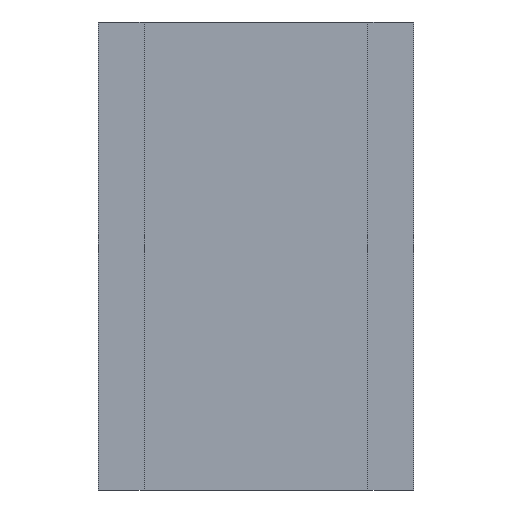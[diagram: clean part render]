
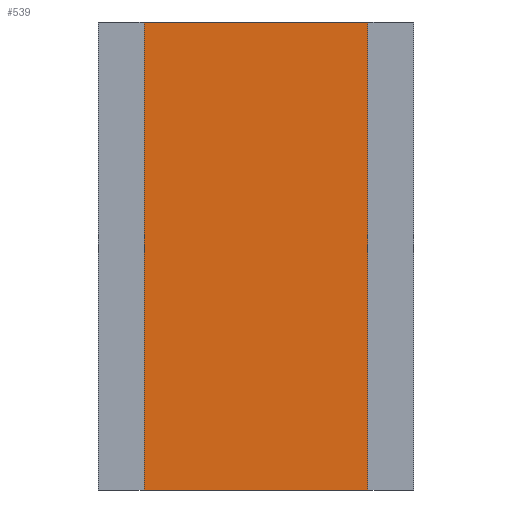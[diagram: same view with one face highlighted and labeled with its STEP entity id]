
A CAD part, front view. The second image highlights one B-rep face of the part: STEP entity #539.
In plain terms, the highlighted planar face has unit normal (0, -1, 0).
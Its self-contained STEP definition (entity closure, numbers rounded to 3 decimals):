
#32 = PLANE('',#33);
#33 = AXIS2_PLACEMENT_3D('',#34,#35,#36);
#34 = CARTESIAN_POINT('',(0.,0.275,-2.3));
#35 = DIRECTION('',(0.,0.,-1.));
#36 = DIRECTION('',(0.,1.,0.));
#136 = VERTEX_POINT('',#137);
#137 = CARTESIAN_POINT('',(1.1,0.15,-2.3));
#158 = EDGE_CURVE('',#136,#159,#161,.T.);
#159 = VERTEX_POINT('',#160);
#160 = CARTESIAN_POINT('',(-1.1,0.15,-2.3));
#161 = SURFACE_CURVE('',#162,(#166,#173),.PCURVE_S1.);
#162 = LINE('',#163,#164);
#163 = CARTESIAN_POINT('',(1.4,0.15,-2.3));
#164 = VECTOR('',#165,1.);
#165 = DIRECTION('',(-1.,0.,0.));
#166 = PCURVE('',#32,#167);
#167 = DEFINITIONAL_REPRESENTATION('',(#168),#172);
#168 = LINE('',#169,#170);
#169 = CARTESIAN_POINT('',(-0.125,1.4));
#170 = VECTOR('',#171,1.);
#171 = DIRECTION('',(0.,-1.));
#172 = ( GEOMETRIC_REPRESENTATION_CONTEXT(2) 
PARAMETRIC_REPRESENTATION_CONTEXT() REPRESENTATION_CONTEXT('2D SPACE',''
  ) );
#173 = PCURVE('',#174,#179);
#174 = PLANE('',#175);
#175 = AXIS2_PLACEMENT_3D('',#176,#177,#178);
#176 = CARTESIAN_POINT('',(1.4,0.15,-2.3));
#177 = DIRECTION('',(0.,-1.,0.));
#178 = DIRECTION('',(-1.,0.,0.));
#179 = DEFINITIONAL_REPRESENTATION('',(#180),#184);
#180 = LINE('',#181,#182);
#181 = CARTESIAN_POINT('',(0.,-0.));
#182 = VECTOR('',#183,1.);
#183 = DIRECTION('',(1.,0.));
#184 = ( GEOMETRIC_REPRESENTATION_CONTEXT(2) 
PARAMETRIC_REPRESENTATION_CONTEXT() REPRESENTATION_CONTEXT('2D SPACE',''
  ) );
#333 = PLANE('',#334);
#334 = AXIS2_PLACEMENT_3D('',#335,#336,#337);
#335 = CARTESIAN_POINT('',(-1.1,0.,-2.3));
#336 = DIRECTION('',(-1.,0.,0.));
#337 = DIRECTION('',(0.,1.,0.));
#524 = PLANE('',#525);
#525 = AXIS2_PLACEMENT_3D('',#526,#527,#528);
#526 = CARTESIAN_POINT('',(1.1,0.,-2.3));
#527 = DIRECTION('',(-1.,0.,0.));
#528 = DIRECTION('',(0.,1.,0.));
#539 = ADVANCED_FACE('',(#540),#174,.T.);
#540 = FACE_BOUND('',#541,.T.);
#541 = EDGE_LOOP('',(#542,#543,#566,#594));
#542 = ORIENTED_EDGE('',*,*,#158,.F.);
#543 = ORIENTED_EDGE('',*,*,#544,.T.);
#544 = EDGE_CURVE('',#136,#545,#547,.T.);
#545 = VERTEX_POINT('',#546);
#546 = CARTESIAN_POINT('',(1.1,0.15,2.3));
#547 = SURFACE_CURVE('',#548,(#552,#559),.PCURVE_S1.);
#548 = LINE('',#549,#550);
#549 = CARTESIAN_POINT('',(1.1,0.15,-2.3));
#550 = VECTOR('',#551,1.);
#551 = DIRECTION('',(0.,0.,1.));
#552 = PCURVE('',#174,#553);
#553 = DEFINITIONAL_REPRESENTATION('',(#554),#558);
#554 = LINE('',#555,#556);
#555 = CARTESIAN_POINT('',(0.3,0.));
#556 = VECTOR('',#557,1.);
#557 = DIRECTION('',(0.,-1.));
#558 = ( GEOMETRIC_REPRESENTATION_CONTEXT(2) 
PARAMETRIC_REPRESENTATION_CONTEXT() REPRESENTATION_CONTEXT('2D SPACE',''
  ) );
#559 = PCURVE('',#524,#560);
#560 = DEFINITIONAL_REPRESENTATION('',(#561),#565);
#561 = LINE('',#562,#563);
#562 = CARTESIAN_POINT('',(0.15,0.));
#563 = VECTOR('',#564,1.);
#564 = DIRECTION('',(0.,-1.));
#565 = ( GEOMETRIC_REPRESENTATION_CONTEXT(2) 
PARAMETRIC_REPRESENTATION_CONTEXT() REPRESENTATION_CONTEXT('2D SPACE',''
  ) );
#566 = ORIENTED_EDGE('',*,*,#567,.T.);
#567 = EDGE_CURVE('',#545,#568,#570,.T.);
#568 = VERTEX_POINT('',#569);
#569 = CARTESIAN_POINT('',(-1.1,0.15,2.3));
#570 = SURFACE_CURVE('',#571,(#575,#582),.PCURVE_S1.);
#571 = LINE('',#572,#573);
#572 = CARTESIAN_POINT('',(1.4,0.15,2.3));
#573 = VECTOR('',#574,1.);
#574 = DIRECTION('',(-1.,0.,0.));
#575 = PCURVE('',#174,#576);
#576 = DEFINITIONAL_REPRESENTATION('',(#577),#581);
#577 = LINE('',#578,#579);
#578 = CARTESIAN_POINT('',(0.,-4.6));
#579 = VECTOR('',#580,1.);
#580 = DIRECTION('',(1.,0.));
#581 = ( GEOMETRIC_REPRESENTATION_CONTEXT(2) 
PARAMETRIC_REPRESENTATION_CONTEXT() REPRESENTATION_CONTEXT('2D SPACE',''
  ) );
#582 = PCURVE('',#583,#588);
#583 = PLANE('',#584);
#584 = AXIS2_PLACEMENT_3D('',#585,#586,#587);
#585 = CARTESIAN_POINT('',(0.,0.275,2.3));
#586 = DIRECTION('',(0.,0.,-1.));
#587 = DIRECTION('',(0.,1.,0.));
#588 = DEFINITIONAL_REPRESENTATION('',(#589),#593);
#589 = LINE('',#590,#591);
#590 = CARTESIAN_POINT('',(-0.125,1.4));
#591 = VECTOR('',#592,1.);
#592 = DIRECTION('',(0.,-1.));
#593 = ( GEOMETRIC_REPRESENTATION_CONTEXT(2) 
PARAMETRIC_REPRESENTATION_CONTEXT() REPRESENTATION_CONTEXT('2D SPACE',''
  ) );
#594 = ORIENTED_EDGE('',*,*,#595,.F.);
#595 = EDGE_CURVE('',#159,#568,#596,.T.);
#596 = SURFACE_CURVE('',#597,(#601,#608),.PCURVE_S1.);
#597 = LINE('',#598,#599);
#598 = CARTESIAN_POINT('',(-1.1,0.15,-2.3));
#599 = VECTOR('',#600,1.);
#600 = DIRECTION('',(0.,0.,1.));
#601 = PCURVE('',#174,#602);
#602 = DEFINITIONAL_REPRESENTATION('',(#603),#607);
#603 = LINE('',#604,#605);
#604 = CARTESIAN_POINT('',(2.5,0.));
#605 = VECTOR('',#606,1.);
#606 = DIRECTION('',(0.,-1.));
#607 = ( GEOMETRIC_REPRESENTATION_CONTEXT(2) 
PARAMETRIC_REPRESENTATION_CONTEXT() REPRESENTATION_CONTEXT('2D SPACE',''
  ) );
#608 = PCURVE('',#333,#609);
#609 = DEFINITIONAL_REPRESENTATION('',(#610),#614);
#610 = LINE('',#611,#612);
#611 = CARTESIAN_POINT('',(0.15,0.));
#612 = VECTOR('',#613,1.);
#613 = DIRECTION('',(0.,-1.));
#614 = ( GEOMETRIC_REPRESENTATION_CONTEXT(2) 
PARAMETRIC_REPRESENTATION_CONTEXT() REPRESENTATION_CONTEXT('2D SPACE',''
  ) );
